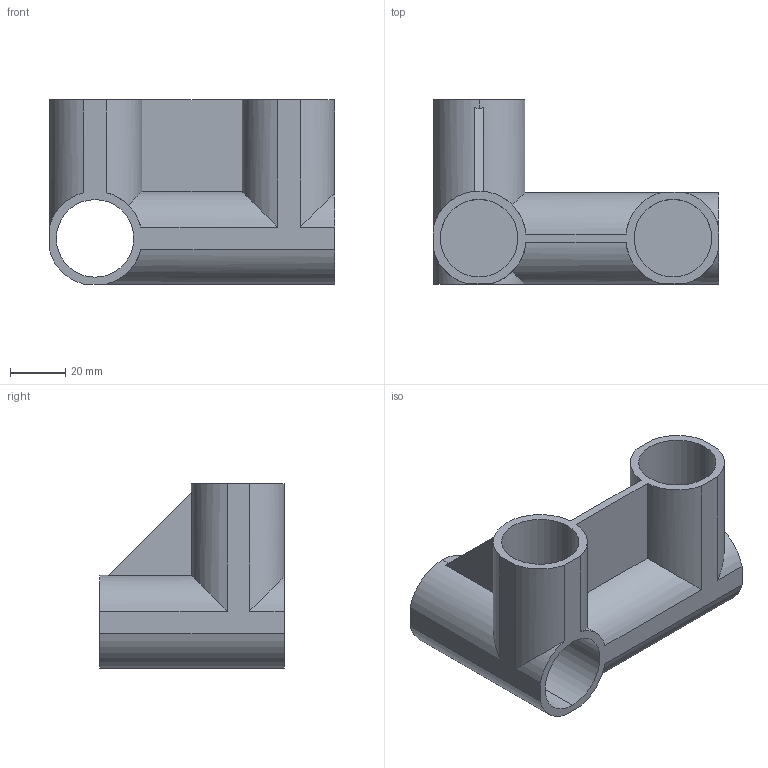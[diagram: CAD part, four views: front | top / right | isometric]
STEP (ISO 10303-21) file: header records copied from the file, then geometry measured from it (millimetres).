
FILE_DESCRIPTION (( 'STEP AP214' ), '1' );
FILE_NAME ('PJ-603R.STEP', '2023-09-12T11:21:11', ( 'catia' ), ( 'HP Inc.' ), 'SwSTEP 2.0', 'SolidWorks 2021', '' );
FILE_SCHEMA (( 'AUTOMOTIVE_DESIGN' ));
Length unit declared in the file: millimetre
Products named in the file (1): PJ-603R
Bounding box: 103 x 66.5 x 66.5 mm (x, y, z)
Volume: 73750.5 mm3; surface area: 43253.6 mm2
Topology: 1 solids, 1 shells, 44 faces, 115 edges, 76 vertices
Faces by surface type: cylinder 28, plane 16
Entity records: 1396 total; most frequent: CARTESIAN_POINT 287, ORIENTED_EDGE 230, DIRECTION 223, EDGE_CURVE 115, AXIS2_PLACEMENT_3D 80, VERTEX_POINT 76, VECTOR 63, LINE 63
